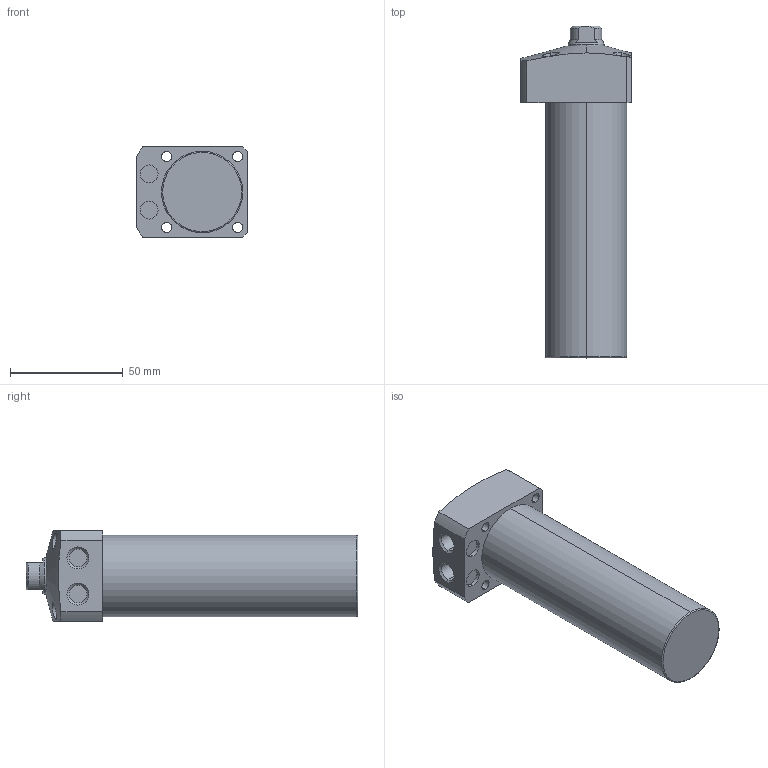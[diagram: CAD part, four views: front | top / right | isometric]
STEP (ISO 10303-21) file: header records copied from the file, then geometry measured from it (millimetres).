
FILE_DESCRIPTION (( 'STEP AP203' ), '1' );
FILE_NAME ('CLL-036CA-090.STEP', '2019-12-20T09:12:17', ( '' ), ( '' ), 'SwSTEP 2.0', 'SolidWorks 2015', '' );
FILE_SCHEMA (( 'CONFIG_CONTROL_DESIGN' ));
Length unit declared in the file: millimetre
Products named in the file (1): CLL-036CA-090
Bounding box: 49 x 147 x 40 mm (x, y, z)
Volume: 156462.4 mm3; surface area: 22955.5 mm2
Topology: 1 solids, 1 shells, 72 faces, 166 edges, 105 vertices
Faces by surface type: cylinder 34, plane 22, cone 14, torus 2
Entity records: 2453 total; most frequent: CARTESIAN_POINT 708, DIRECTION 364, ORIENTED_EDGE 328, EDGE_CURVE 164, AXIS2_PLACEMENT_3D 151, VERTEX_POINT 105, EDGE_LOOP 91, CIRCLE 78
